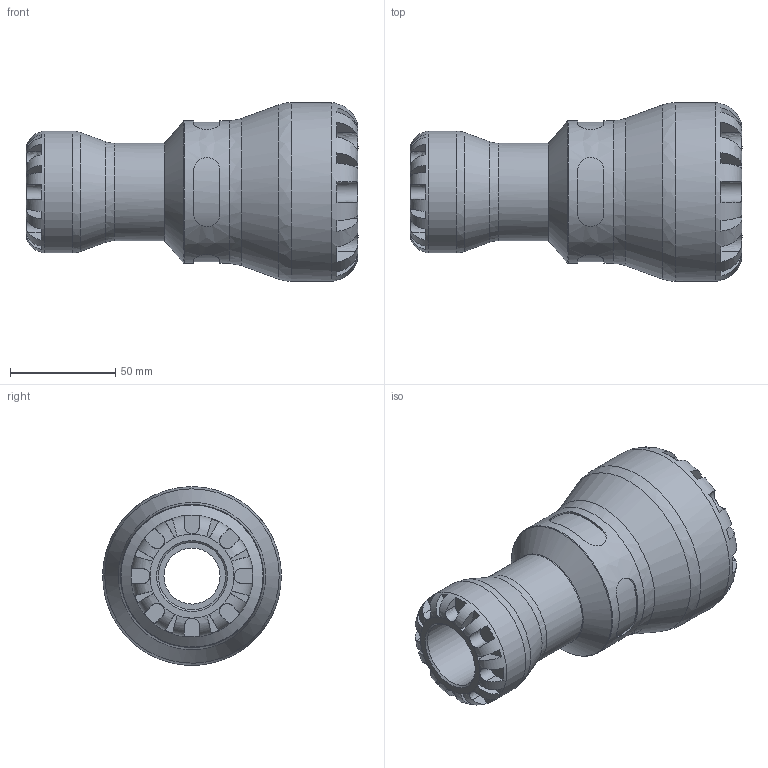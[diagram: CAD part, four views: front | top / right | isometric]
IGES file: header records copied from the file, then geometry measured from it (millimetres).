
Global section: file name: 151100050032; native system: Autodesk Inventor 2019; preprocessor: unknown; author: KIM; date: 20231017.194505; units: millimetre
Bounding box: 158 x 85 x 84.95 mm (x, y, z)
Volume: 310157.3 mm3; surface area: 63623.7 mm2
Topology: 1 solids, 1 shells, 172 faces, 465 edges, 300 vertices
Faces by surface type: bspline 172
